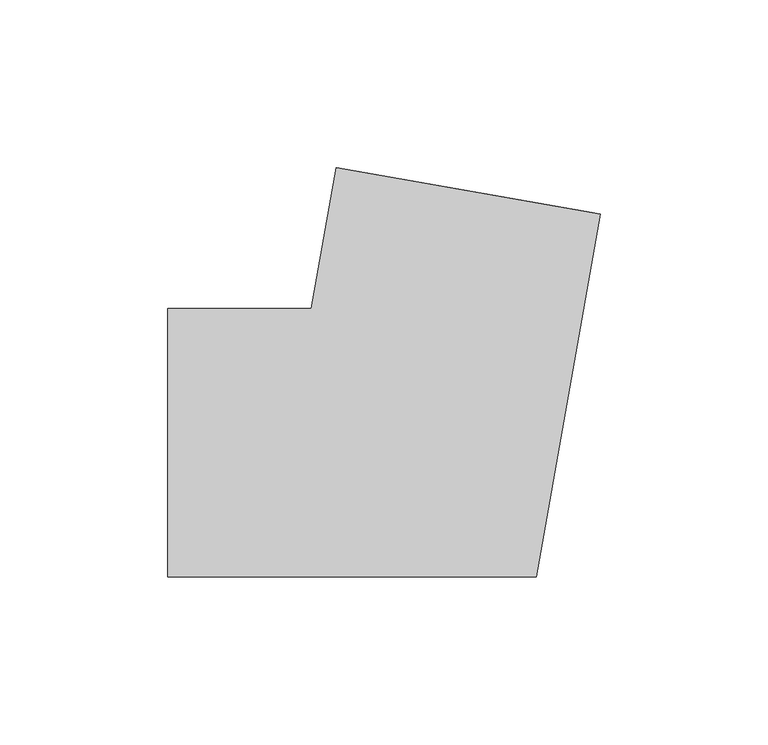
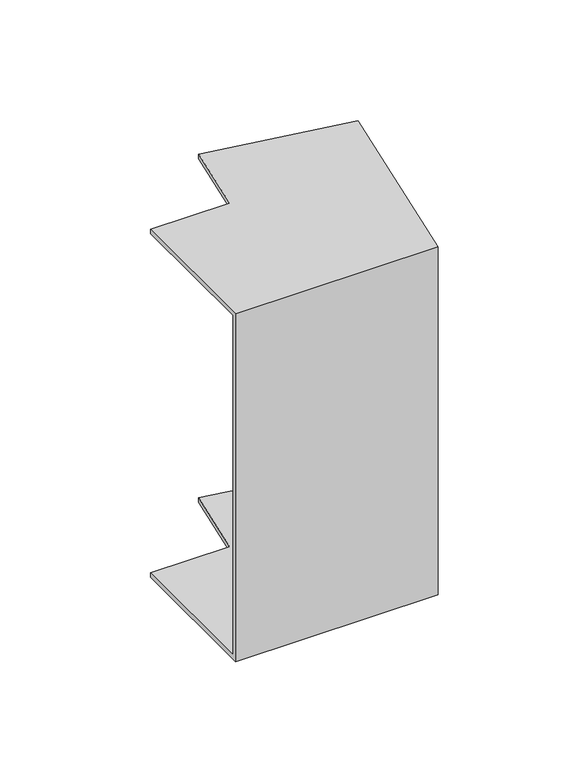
"""IFC4 building model written with IfcOpenShell, lengths in millimetres: cable carrier fitting geometry, КНС_УголВнутренний_ILC_DKC : Угол внутренний_DKC."""

from ifc_helpers import new_model, si_unit, origin, place, context, project, spatial, faceted_brep, source, transform, mapped, element, save


def cable_carrier_fitting_1948c760(model_context):
    return source(origin(), model_context, "Body", "Brep", [
        faceted_brep([(-76.3234687, -40.0, 100.0), (-76.3234687, 40.0, 100.0), (-76.3234687, 40.0, 97.5), (-76.3234687, -37.5, 97.5), (-76.3234687, -37.5, -97.5), (-76.3234687, 40.0, -97.5), (-76.3234687, 40.0, -100.0), (-76.3234687, -40.0, -100.0), (52.6457414, 68.2180166, 100.0), (52.6457414, 68.2180166, -100.0), (-26.1388789, 82.1098708, -100.0), (-26.1388789, 82.1098708, -97.5), (50.183722, 68.652137, -97.5), (50.183722, 68.652137, 97.5), (-26.1388789, 82.1098708, 97.5), (-26.1388789, 82.1098708, 100.0), (33.5639852, -40.0, 100.0), (-33.5639852, 40.0, 100.0), (-33.5639852, 40.0, 97.5), (31.4662362, -37.5, 97.5), (31.4662362, -37.5, -97.5), (-33.5639852, 40.0, -97.5), (-33.5639852, 40.0, -100.0), (33.5639852, -40.0, -100.0)], [[[0, 1, 2, 3, 4, 5, 6, 7]], [[8, 9, 10, 11, 12, 13, 14, 15]], [[1, 0, 16, 8, 15, 17]], [[2, 1, 17, 18]], [[3, 2, 18, 14, 13, 19]], [[4, 3, 19, 20]], [[5, 4, 20, 12, 11, 21]], [[6, 5, 21, 22]], [[7, 6, 22, 10, 9, 23]], [[0, 7, 23, 16]], [[18, 17, 15, 14]], [[20, 19, 13, 12]], [[22, 21, 11, 10]], [[16, 23, 9, 8]]]),
    ])


if __name__ == "__main__":
    model = new_model("IFC4")
    model_context = context("Model", 3, world=origin())
    ifc_project = project(units=[si_unit("LENGTHUNIT", "METRE", prefix="MILLI")], contexts=[model_context])
    site = spatial("IfcSite", under=ifc_project)
    building = spatial("IfcBuilding", under=site)
    placement = place(None, origin())
    cable_carrier_fitting_shape = cable_carrier_fitting_1948c760(model_context)
    element("IfcCableCarrierFitting", 1, ObjectType="КНС_УголВнутренний_ILC_DKC : Угол внутренний_DKC", at=placement, inside=building, context=model_context, shape_type="MappedRepresentation", body=[
        mapped(cable_carrier_fitting_shape, transform((0.0, 0.0, 0.0), x_axis=(1.0, 0.0, 0.0), y_axis=(0.0, 1.0, 0.0), z_axis=(0.0, 0.0, 1.0))),
    ])
    save(model, "model.ifc")
